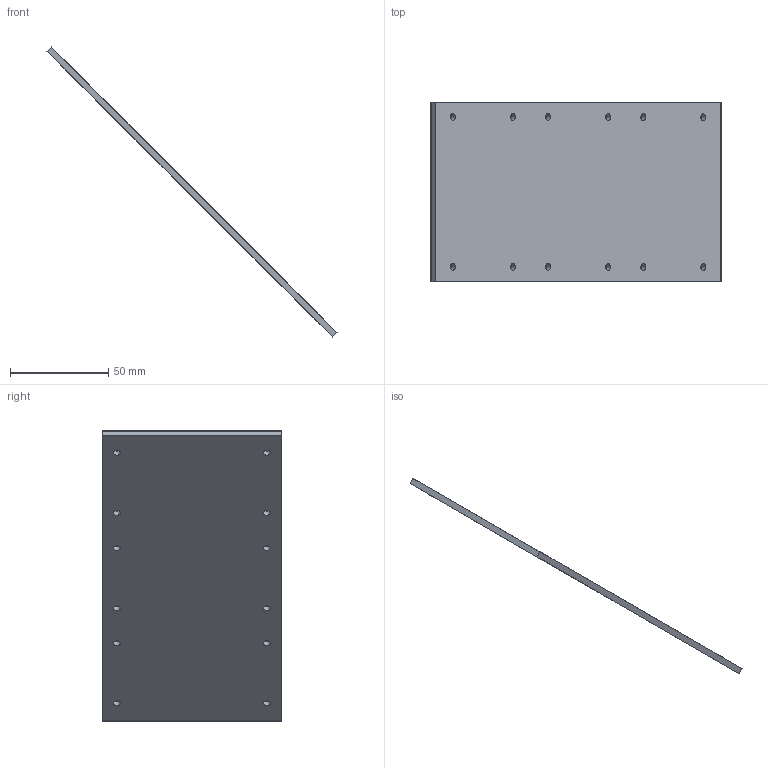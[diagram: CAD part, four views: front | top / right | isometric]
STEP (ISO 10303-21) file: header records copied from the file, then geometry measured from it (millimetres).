
FILE_DESCRIPTION(('STEP AP214'), '1');
FILE_NAME('Upper_Skin', '', ('UNSPECIFIED'), ('UNSPECIFIED'), 'C3D Converter', 'C3D Toolkit', '');
FILE_SCHEMA(('AUTOMOTIVE_DESIGN { 1 0 10303 214 3 1 1}'));
Length unit declared in the file: millimetre
Bounding box: 147.32 x 91.14 x 147.32 mm (x, y, z)
Volume: 55799.7 mm3; surface area: 39374.3 mm2
Topology: 1 solids, 1 shells, 26 faces, 64 edges, 40 vertices
Faces by surface type: plane 14, bspline 12
Entity records: 10302 total; most frequent: CARTESIAN_POINT 9733, ORIENTED_EDGE 104, EDGE_LOOP 62, DIRECTION 58, EDGE_CURVE 52, VERTEX_POINT 40, FACE_BOUND 38, LINE 28
